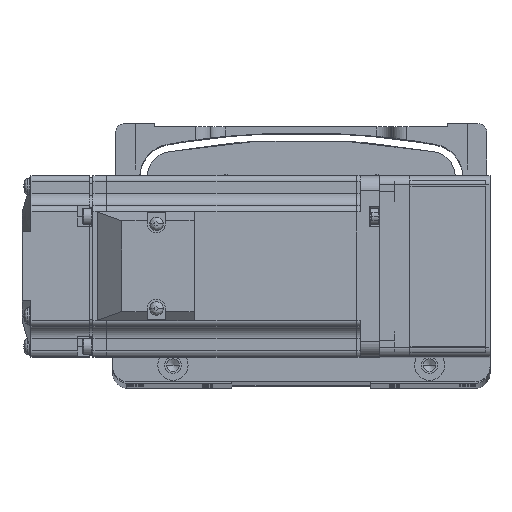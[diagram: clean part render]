
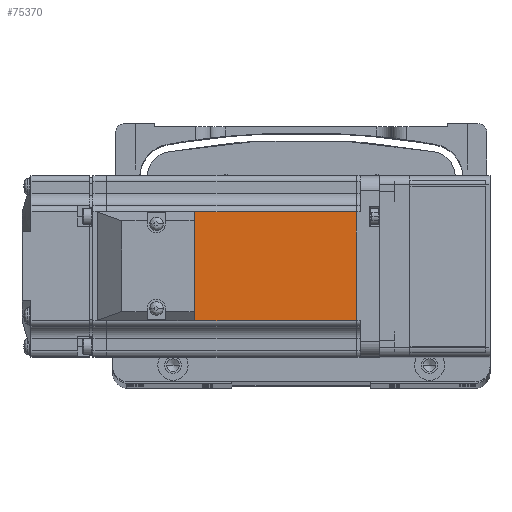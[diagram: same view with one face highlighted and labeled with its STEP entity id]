
A CAD part, top view. The second image highlights one B-rep face of the part: STEP entity #75370.
In plain terms, the highlighted planar face has unit normal (0, 0, 1) as drawn and (0, 1, 0) by its records, which use the part's own axes.
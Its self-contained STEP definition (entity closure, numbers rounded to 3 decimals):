
#7 = ORIENTED_EDGE ( 'NONE', *, *, #78855, .T. ) ;
#974 = DIRECTION ( 'NONE',  ( -1., 0., 0. ) ) ;
#2938 = CARTESIAN_POINT ( 'NONE',  ( -6.5, 30., 18. ) ) ;
#4815 = AXIS2_PLACEMENT_3D ( 'NONE', #12564, #57785, #19116 ) ;
#12564 = CARTESIAN_POINT ( 'NONE',  ( -6.5, 30., 25. ) ) ;
#18397 = CARTESIAN_POINT ( 'NONE',  ( -7.75, 30., 0. ) ) ;
#18840 = PLANE ( 'NONE',  #4815 ) ;
#19116 = DIRECTION ( 'NONE',  ( 0., 0., 1. ) ) ;
#19294 = VECTOR ( 'NONE', #974, 1000. ) ;
#23790 = ORIENTED_EDGE ( 'NONE', *, *, #24237, .T. ) ;
#24073 = DIRECTION ( 'NONE',  ( 0., 0., 1. ) ) ;
#24237 = EDGE_CURVE ( 'NONE', #79204, #28562, #30438, .T. ) ;
#25329 = CARTESIAN_POINT ( 'NONE',  ( -90.45, 30., -18. ) ) ;
#28562 = VERTEX_POINT ( 'NONE', #64293 ) ;
#28747 = CARTESIAN_POINT ( 'NONE',  ( -7.75, 30., -18. ) ) ;
#30438 = LINE ( 'NONE', #2938, #43580 ) ;
#30743 = EDGE_LOOP ( 'NONE', ( #64028, #7, #80750, #23790 ) ) ;
#37349 = CARTESIAN_POINT ( 'NONE',  ( -90.45, 30., 18. ) ) ;
#41591 = DIRECTION ( 'NONE',  ( 1., 0., 0. ) ) ;
#43580 = VECTOR ( 'NONE', #41591, 1000. ) ;
#43592 = CARTESIAN_POINT ( 'NONE',  ( -90.45, 30., 0. ) ) ;
#43644 = VECTOR ( 'NONE', #24073, 1000. ) ;
#45640 = EDGE_CURVE ( 'NONE', #70484, #79204, #64797, .T. ) ;
#46255 = LINE ( 'NONE', #18397, #61440 ) ;
#47917 = FACE_OUTER_BOUND ( 'NONE', #30743, .T. ) ;
#57785 = DIRECTION ( 'NONE',  ( 0., 1., 0. ) ) ;
#61440 = VECTOR ( 'NONE', #70050, 1000. ) ;
#64028 = ORIENTED_EDGE ( 'NONE', *, *, #73555, .F. ) ;
#64293 = CARTESIAN_POINT ( 'NONE',  ( -7.75, 30., 18. ) ) ;
#64797 = LINE ( 'NONE', #43592, #43644 ) ;
#70050 = DIRECTION ( 'NONE',  ( 0., 0., 1. ) ) ;
#70484 = VERTEX_POINT ( 'NONE', #25329 ) ;
#70794 = LINE ( 'NONE', #78247, #19294 ) ;
#73555 = EDGE_CURVE ( 'NONE', #75185, #28562, #46255, .T. ) ;
#75185 = VERTEX_POINT ( 'NONE', #28747 ) ;
#75370 = ADVANCED_FACE ( 'NONE', ( #47917 ), #18840, .T. ) ;
#78247 = CARTESIAN_POINT ( 'NONE',  ( -6.5, 30., -18. ) ) ;
#78855 = EDGE_CURVE ( 'NONE', #75185, #70484, #70794, .T. ) ;
#79204 = VERTEX_POINT ( 'NONE', #37349 ) ;
#80750 = ORIENTED_EDGE ( 'NONE', *, *, #45640, .T. ) ;
